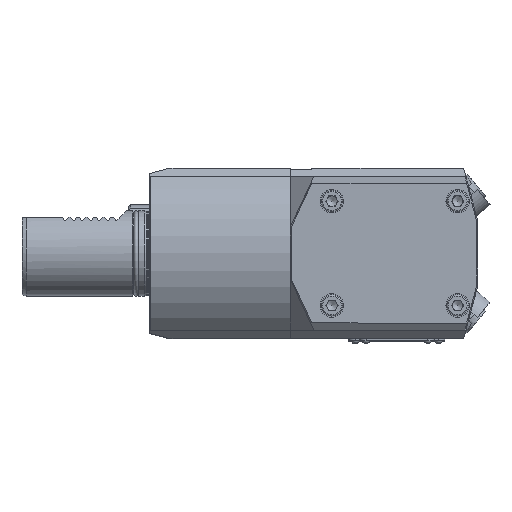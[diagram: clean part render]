
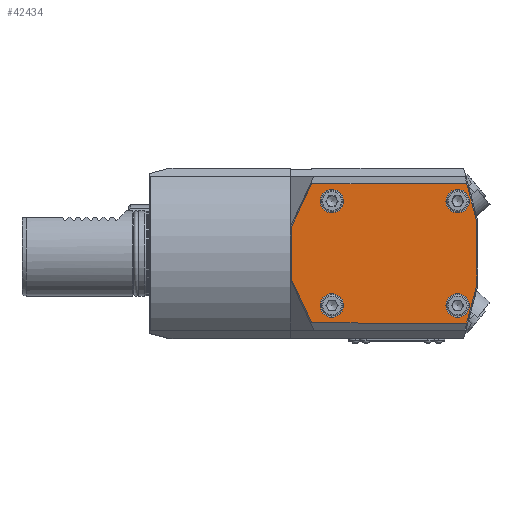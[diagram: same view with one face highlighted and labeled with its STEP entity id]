
A CAD part, top view. The second image highlights one B-rep face of the part: STEP entity #42434.
In plain terms, the highlighted planar face has unit normal (0, 0, 1) as drawn and (-1, 0, 0) by its records, which use the part's own axes.
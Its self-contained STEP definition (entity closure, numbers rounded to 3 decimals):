
#615=VECTOR('',#45642,1.);
#616=VECTOR('',#45643,1.);
#617=VECTOR('',#45644,1.);
#618=VECTOR('',#45645,1.);
#619=VECTOR('',#45646,1.);
#620=VECTOR('',#45647,1.);
#621=VECTOR('',#45648,1.);
#622=VECTOR('',#45649,1.);
#1941=LINE('',#54566,#615);
#1942=LINE('',#54568,#616);
#1943=LINE('',#54570,#617);
#1944=LINE('',#54572,#618);
#1945=LINE('',#54574,#619);
#1946=LINE('',#54576,#620);
#1947=LINE('',#54578,#621);
#1948=LINE('',#54579,#622);
#28786=PLANE('',#63255);
#31113=ORIENTED_EDGE('',*,*,#37796,.F.);
#31114=ORIENTED_EDGE('',*,*,#37797,.F.);
#31115=ORIENTED_EDGE('',*,*,#37798,.F.);
#31116=ORIENTED_EDGE('',*,*,#37799,.F.);
#31117=ORIENTED_EDGE('',*,*,#37800,.F.);
#31118=ORIENTED_EDGE('',*,*,#37801,.F.);
#31119=ORIENTED_EDGE('',*,*,#37802,.F.);
#31120=ORIENTED_EDGE('',*,*,#37803,.F.);
#31121=ORIENTED_EDGE('',*,*,#37794,.F.);
#31122=ORIENTED_EDGE('',*,*,#37804,.F.);
#31123=ORIENTED_EDGE('',*,*,#37805,.F.);
#31124=ORIENTED_EDGE('',*,*,#37806,.F.);
#34827=CIRCLE('',#63253,5.5);
#34829=CIRCLE('',#63256,5.5);
#34830=CIRCLE('',#63257,5.5);
#34831=CIRCLE('',#63258,5.5);
#35795=VERTEX_POINT('',#54559);
#35797=VERTEX_POINT('',#54564);
#35798=VERTEX_POINT('',#54565);
#35799=VERTEX_POINT('',#54567);
#35800=VERTEX_POINT('',#54569);
#35801=VERTEX_POINT('',#54571);
#35802=VERTEX_POINT('',#54573);
#35803=VERTEX_POINT('',#54575);
#35804=VERTEX_POINT('',#54577);
#35805=VERTEX_POINT('',#54580);
#35806=VERTEX_POINT('',#54582);
#35807=VERTEX_POINT('',#54584);
#37794=EDGE_CURVE('',#35795,#35795,#34827,.T.);
#37796=EDGE_CURVE('',#35797,#35798,#1941,.T.);
#37797=EDGE_CURVE('',#35799,#35797,#1942,.T.);
#37798=EDGE_CURVE('',#35800,#35799,#1943,.T.);
#37799=EDGE_CURVE('',#35801,#35800,#1944,.T.);
#37800=EDGE_CURVE('',#35802,#35801,#1945,.T.);
#37801=EDGE_CURVE('',#35803,#35802,#1946,.T.);
#37802=EDGE_CURVE('',#35804,#35803,#1947,.T.);
#37803=EDGE_CURVE('',#35798,#35804,#1948,.T.);
#37804=EDGE_CURVE('',#35805,#35805,#34829,.T.);
#37805=EDGE_CURVE('',#35806,#35806,#34830,.T.);
#37806=EDGE_CURVE('',#35807,#35807,#34831,.T.);
#39788=EDGE_LOOP('',(#31113,#31114,#31115,#31116,#31117,#31118,#31119,#31120));
#39789=EDGE_LOOP('',(#31121));
#39790=EDGE_LOOP('',(#31122));
#39791=EDGE_LOOP('',(#31123));
#39792=EDGE_LOOP('',(#31124));
#41029=FACE_BOUND('',#39788,.T.);
#41030=FACE_BOUND('',#39789,.T.);
#41031=FACE_BOUND('',#39790,.T.);
#41032=FACE_BOUND('',#39791,.T.);
#41033=FACE_BOUND('',#39792,.T.);
#42434=ADVANCED_FACE('',(#41029,#41030,#41031,#41032,#41033),#28786,.T.);
#45636=DIRECTION('',(-1.,0.,0.));
#45637=DIRECTION('',(0.,-5.5,0.));
#45640=DIRECTION('',(-1.,0.,0.));
#45641=DIRECTION('',(0.,1.,0.));
#45642=DIRECTION('',(0.015,-72.723,0.005));
#45643=DIRECTION('',(0.,-9.524,20.425));
#45644=DIRECTION('',(0.,0.,24.599));
#45645=DIRECTION('',(0.,9.524,20.425));
#45646=DIRECTION('',(-0.015,72.723,0.005));
#45647=DIRECTION('',(0.015,4.753,-17.796));
#45648=DIRECTION('',(0.,0.,-29.868));
#45649=DIRECTION('',(-0.015,-4.753,-17.796));
#45650=DIRECTION('',(-1.,0.,0.));
#45651=DIRECTION('',(0.,-5.5,0.));
#45652=DIRECTION('',(-1.,0.,0.));
#45653=DIRECTION('',(0.,-5.5,0.));
#45654=DIRECTION('',(-1.,0.,0.));
#45655=DIRECTION('',(0.,-5.5,0.));
#54559=CARTESIAN_POINT('',(46.381,111.222,-24.5));
#54560=CARTESIAN_POINT('',(46.381,116.722,-24.5));
#54563=CARTESIAN_POINT('',(46.381,48.222,-15.));
#54564=CARTESIAN_POINT('',(46.381,126.198,32.724));
#54565=CARTESIAN_POINT('',(46.396,53.475,32.73));
#54566=CARTESIAN_POINT('',(46.381,126.198,32.724));
#54567=CARTESIAN_POINT('',(46.381,135.722,12.3));
#54568=CARTESIAN_POINT('',(46.381,135.722,12.3));
#54569=CARTESIAN_POINT('',(46.381,135.722,-12.3));
#54570=CARTESIAN_POINT('',(46.381,135.722,-12.3));
#54571=CARTESIAN_POINT('',(46.381,126.198,-32.724));
#54572=CARTESIAN_POINT('',(46.381,126.198,-32.724));
#54573=CARTESIAN_POINT('',(46.396,53.475,-32.73));
#54574=CARTESIAN_POINT('',(46.396,53.475,-32.73));
#54575=CARTESIAN_POINT('',(46.381,48.722,-14.934));
#54576=CARTESIAN_POINT('',(46.381,48.722,-14.934));
#54577=CARTESIAN_POINT('',(46.381,48.722,14.934));
#54578=CARTESIAN_POINT('',(46.381,48.722,14.934));
#54579=CARTESIAN_POINT('',(46.396,53.475,32.73));
#54580=CARTESIAN_POINT('',(46.381,52.222,-24.5));
#54581=CARTESIAN_POINT('',(46.381,57.722,-24.5));
#54582=CARTESIAN_POINT('',(46.381,111.222,24.5));
#54583=CARTESIAN_POINT('',(46.381,116.722,24.5));
#54584=CARTESIAN_POINT('',(46.381,52.222,24.5));
#54585=CARTESIAN_POINT('',(46.381,57.722,24.5));
#63253=AXIS2_PLACEMENT_3D('',#54560,#45636,#45637);
#63255=AXIS2_PLACEMENT_3D('',#54563,#45640,#45641);
#63256=AXIS2_PLACEMENT_3D('',#54581,#45650,#45651);
#63257=AXIS2_PLACEMENT_3D('',#54583,#45652,#45653);
#63258=AXIS2_PLACEMENT_3D('',#54585,#45654,#45655);
